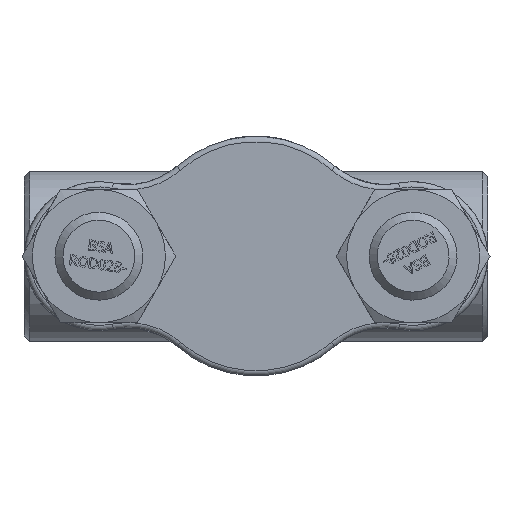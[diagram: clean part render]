
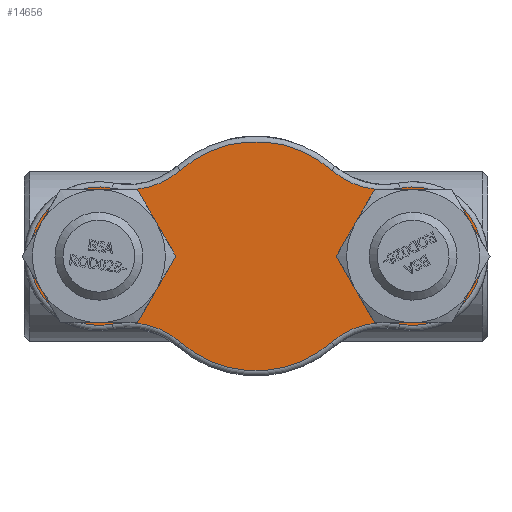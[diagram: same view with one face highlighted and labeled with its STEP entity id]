
A CAD part, front view. The second image highlights one B-rep face of the part: STEP entity #14656.
In plain terms, the highlighted planar face has unit normal (0, -1, 0) as drawn and (0, 0, -1) by its records, which use the part's own axes.
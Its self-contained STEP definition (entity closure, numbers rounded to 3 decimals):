
#3830=PLANE('',#15609);
#4205=FACE_BOUND('',#5168,.T.);
#4206=FACE_BOUND('',#5169,.T.);
#4303=FACE_OUTER_BOUND('',#5167,.T.);
#5167=EDGE_LOOP('',(#10091,#10092,#10093,#10094,#10095,#10096,#10097,#10098));
#5168=EDGE_LOOP('',(#10099));
#5169=EDGE_LOOP('',(#10100));
#6127=CIRCLE('',#15608,19.5);
#6128=CIRCLE('',#15610,26.);
#6129=CIRCLE('',#15611,30.);
#6130=CIRCLE('',#15612,43.);
#6131=CIRCLE('',#15613,30.);
#6132=CIRCLE('',#15614,26.);
#6133=CIRCLE('',#15615,30.);
#6134=CIRCLE('',#15616,43.);
#6135=CIRCLE('',#15617,30.);
#6136=CIRCLE('',#15618,19.5);
#6311=VERTEX_POINT('',#18898);
#6312=VERTEX_POINT('',#18901);
#6313=VERTEX_POINT('',#18902);
#6314=VERTEX_POINT('',#18904);
#6315=VERTEX_POINT('',#18906);
#6316=VERTEX_POINT('',#18908);
#6317=VERTEX_POINT('',#18910);
#6318=VERTEX_POINT('',#18912);
#6319=VERTEX_POINT('',#18914);
#6320=VERTEX_POINT('',#18917);
#7817=EDGE_CURVE('',#6311,#6311,#6127,.T.);
#7818=EDGE_CURVE('',#6312,#6313,#6128,.T.);
#7819=EDGE_CURVE('',#6314,#6312,#6129,.T.);
#7820=EDGE_CURVE('',#6315,#6314,#6130,.T.);
#7821=EDGE_CURVE('',#6316,#6315,#6131,.T.);
#7822=EDGE_CURVE('',#6317,#6316,#6132,.T.);
#7823=EDGE_CURVE('',#6318,#6317,#6133,.T.);
#7824=EDGE_CURVE('',#6319,#6318,#6134,.T.);
#7825=EDGE_CURVE('',#6313,#6319,#6135,.T.);
#7826=EDGE_CURVE('',#6320,#6320,#6136,.T.);
#10091=ORIENTED_EDGE('',*,*,#7818,.F.);
#10092=ORIENTED_EDGE('',*,*,#7819,.F.);
#10093=ORIENTED_EDGE('',*,*,#7820,.F.);
#10094=ORIENTED_EDGE('',*,*,#7821,.F.);
#10095=ORIENTED_EDGE('',*,*,#7822,.F.);
#10096=ORIENTED_EDGE('',*,*,#7823,.F.);
#10097=ORIENTED_EDGE('',*,*,#7824,.F.);
#10098=ORIENTED_EDGE('',*,*,#7825,.F.);
#10099=ORIENTED_EDGE('',*,*,#7826,.F.);
#10100=ORIENTED_EDGE('',*,*,#7817,.F.);
#14656=ADVANCED_FACE('',(#4303,#4205,#4206),#3830,.F.);
#15608=AXIS2_PLACEMENT_3D('',#18899,#16304,#16305);
#15609=AXIS2_PLACEMENT_3D('',#18900,#16306,#16307);
#15610=AXIS2_PLACEMENT_3D('',#18903,#16308,#16309);
#15611=AXIS2_PLACEMENT_3D('',#18905,#16310,#16311);
#15612=AXIS2_PLACEMENT_3D('',#18907,#16312,#16313);
#15613=AXIS2_PLACEMENT_3D('',#18909,#16314,#16315);
#15614=AXIS2_PLACEMENT_3D('',#18911,#16316,#16317);
#15615=AXIS2_PLACEMENT_3D('',#18913,#16318,#16319);
#15616=AXIS2_PLACEMENT_3D('',#18915,#16320,#16321);
#15617=AXIS2_PLACEMENT_3D('',#18916,#16322,#16323);
#15618=AXIS2_PLACEMENT_3D('',#18918,#16324,#16325);
#16304=DIRECTION('center_axis',(0.,0.,-1.));
#16305=DIRECTION('ref_axis',(1.,0.,0.));
#16306=DIRECTION('center_axis',(0.,0.,1.));
#16307=DIRECTION('ref_axis',(1.,0.,0.));
#16308=DIRECTION('center_axis',(0.,0.,1.));
#16309=DIRECTION('ref_axis',(-1.,0.,0.));
#16310=DIRECTION('center_axis',(0.,0.,-1.));
#16311=DIRECTION('ref_axis',(0.258,-0.966,0.));
#16312=DIRECTION('center_axis',(0.,0.,1.));
#16313=DIRECTION('ref_axis',(0.,1.,0.));
#16314=DIRECTION('center_axis',(0.,0.,-1.));
#16315=DIRECTION('ref_axis',(-0.258,-0.966,0.));
#16316=DIRECTION('center_axis',(0.,0.,1.));
#16317=DIRECTION('ref_axis',(1.,0.,0.));
#16318=DIRECTION('center_axis',(0.,0.,-1.));
#16319=DIRECTION('ref_axis',(-0.258,0.966,0.));
#16320=DIRECTION('center_axis',(0.,0.,1.));
#16321=DIRECTION('ref_axis',(0.,-1.,0.));
#16322=DIRECTION('center_axis',(0.,0.,-1.));
#16323=DIRECTION('ref_axis',(0.258,0.966,0.));
#16324=DIRECTION('center_axis',(0.,0.,-1.));
#16325=DIRECTION('ref_axis',(1.,0.,0.));
#18898=CARTESIAN_POINT('',(39.5,0.,0.));
#18899=CARTESIAN_POINT('Origin',(59.,0.,0.));
#18900=CARTESIAN_POINT('Origin',(0.,0.,0.));
#18901=CARTESIAN_POINT('',(-53.932,25.501,0.));
#18902=CARTESIAN_POINT('',(-53.932,-25.501,0.));
#18903=CARTESIAN_POINT('Origin',(-59.,0.,0.));
#18904=CARTESIAN_POINT('',(-28.324,32.354,0.));
#18905=CARTESIAN_POINT('Origin',(-48.085,54.926,0.));
#18906=CARTESIAN_POINT('',(28.324,32.354,0.));
#18907=CARTESIAN_POINT('Origin',(0.,0.,0.));
#18908=CARTESIAN_POINT('',(53.932,25.501,0.));
#18909=CARTESIAN_POINT('Origin',(48.085,54.926,0.));
#18910=CARTESIAN_POINT('',(53.932,-25.501,0.));
#18911=CARTESIAN_POINT('Origin',(59.,0.,0.));
#18912=CARTESIAN_POINT('',(28.324,-32.354,0.));
#18913=CARTESIAN_POINT('Origin',(48.085,-54.926,0.));
#18914=CARTESIAN_POINT('',(-28.324,-32.354,0.));
#18915=CARTESIAN_POINT('Origin',(0.,0.,0.));
#18916=CARTESIAN_POINT('Origin',(-48.085,-54.926,0.));
#18917=CARTESIAN_POINT('',(-78.5,0.,0.));
#18918=CARTESIAN_POINT('Origin',(-59.,0.,0.));
